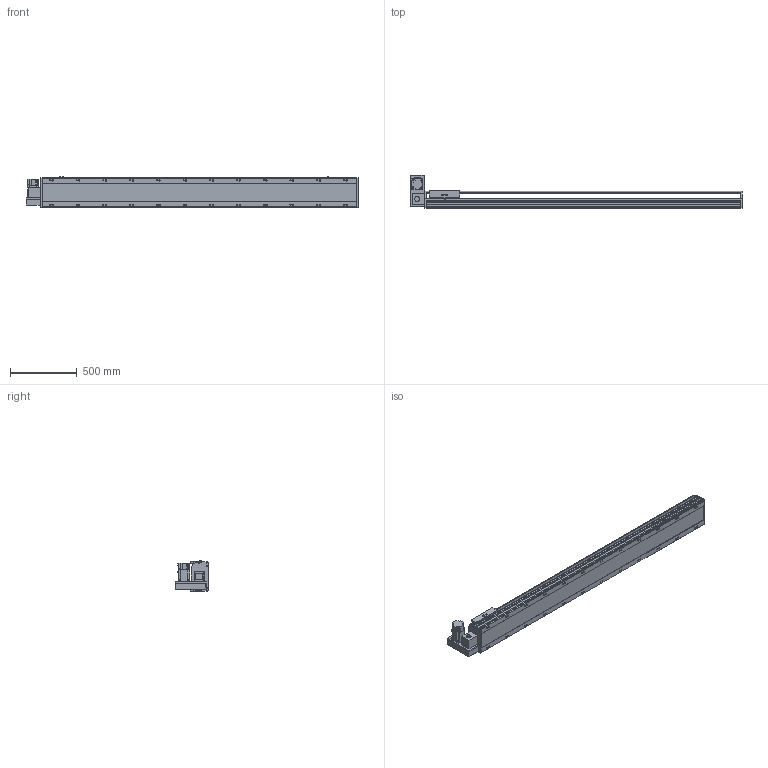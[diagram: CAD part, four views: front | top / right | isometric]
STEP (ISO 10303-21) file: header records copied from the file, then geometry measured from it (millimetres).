
FILE_DESCRIPTION(/* description */ ('STEP AP214'),/* implementation_level */ '2;1');
FILE_NAME(/* name */ 'PBS220-P40-S2000-LU-T75-C1-N(0)',/* time_stamp */ '2022-06-13T02:31:12+02:00',/* author */ ('License CC BY-ND 4.0'),/* organization */ ('CADENAS'),/* preprocessor_version */ 'ST-DEVELOPER v18.102',/* originating_system */ 'PARTsolutions',/* authorisation */ ' ');
FILE_SCHEMA (('AUTOMOTIVE_DESIGN {1 0 10303 214 3 1 1}'));
Length unit declared in the file: millimetre
Products named in the file (7): PBS220-P40-S2000-LU-T75-C1-N(0); PBS220_sensor; PBS220_plant; PBS220_sliser; T75-p1; PBS220T-LU_motors; PBS220-S2000()_body
Assembly tree (8 placements, depth 2):
  PBS220-P40-S2000-LU-T75-C1-N(0)
    PBS220_sensor  x3
    PBS220_plant
    PBS220_sliser
    T75-p1
    PBS220T-LU_motors
    PBS220-S2000()_body
Bounding box: 2484 x 247 x 238.5 mm (x, y, z)
Volume: 34929204.9 mm3; surface area: 3244970.9 mm2
Topology: 8 solids, 8 shells, 962 faces, 2508 edges, 1630 vertices
Faces by surface type: plane 614, cylinder 300, cone 48
Full cylindrical faces by diameter (mm): 2.013 x4, 4.5 x14, 4.917 x4, 6 x7, 6.647 x8, 8 x10, 8.376 x24, 8.5 x24, 10 x6, 14 x24, 38 x2, 40 x1, 70 x1
Entity records: 26877 total; most frequent: CARTESIAN_POINT 4756, DIRECTION 4671, ORIENTED_EDGE 4250, EDGE_CURVE 2125, AXIS2_PLACEMENT_3D 1659, VERTEX_POINT 1480, LINE 1353, VECTOR 1353
